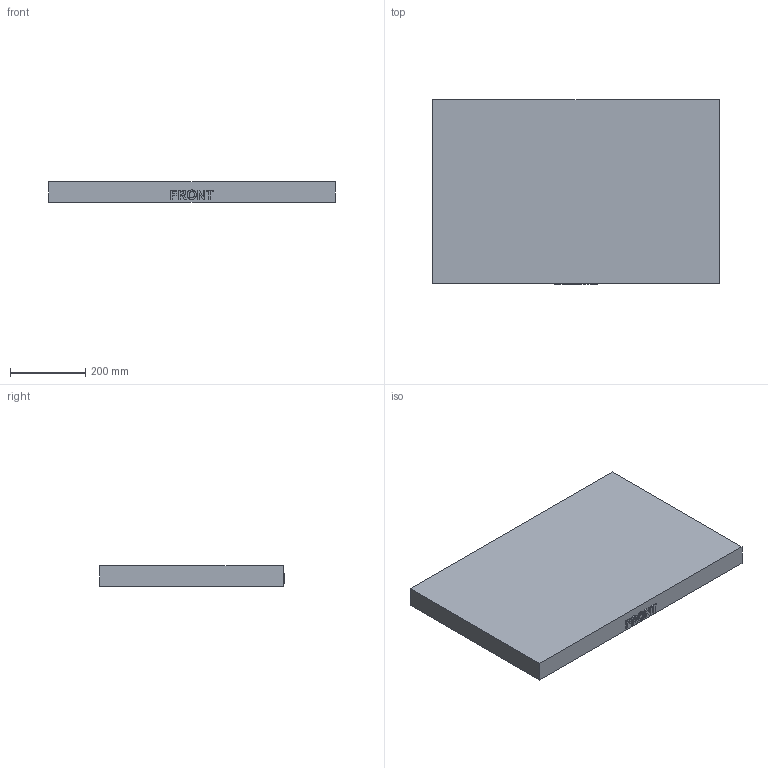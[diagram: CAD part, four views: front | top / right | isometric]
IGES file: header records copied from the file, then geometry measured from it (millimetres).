
Start section: Comment
Global section: file name: 2950-lid_internal_tub.igs; native system:  By UGS Corp.; preprocessor: XPlus GENERIC/IGES 3.0; author: Author; organization: Title; date: 20100514.101804; units: millimetre
Bounding box: 762 x 492.12 x 53.98 mm (x, y, z)
Surface area: 984217.8 mm2 (no closed solid volume)
Topology: 0 solids, 0 shells, 411 faces, 2229 edges, 2221 vertices
Faces by surface type: bspline 411
